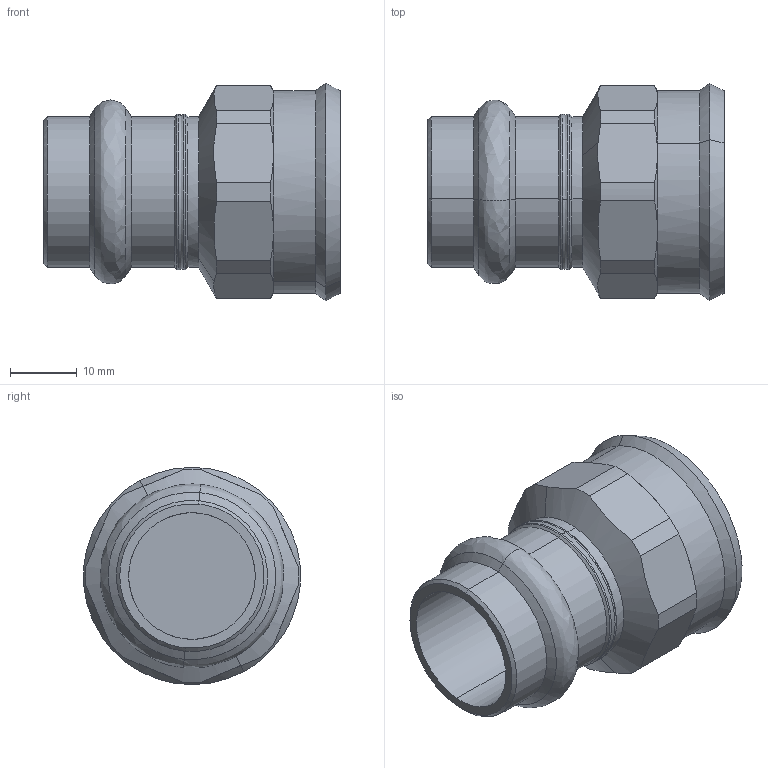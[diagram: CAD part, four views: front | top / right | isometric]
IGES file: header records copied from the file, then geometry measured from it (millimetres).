
Start section: 3D InterOp IGES (Version 25 0 1), Spatial Corp. Copyright (c) 1999-2007.
Global section: file name: pim0004666.igs; native system: Spatial Corp.; preprocessor: 3D InterOp ACIS/IGES; author: Cad-Pim; organization: TransMagic, Inc.; date: 20150504.073059; units: millimetre
Bounding box: 44.5 x 32.58 x 32.67 mm (x, y, z)
Volume: 12130.2 mm3; surface area: 7860.3 mm2
Topology: 1 solids, 1 shells, 69 faces, 182 edges, 117 vertices
Faces by surface type: bspline 24, cone 23, cylinder 22
